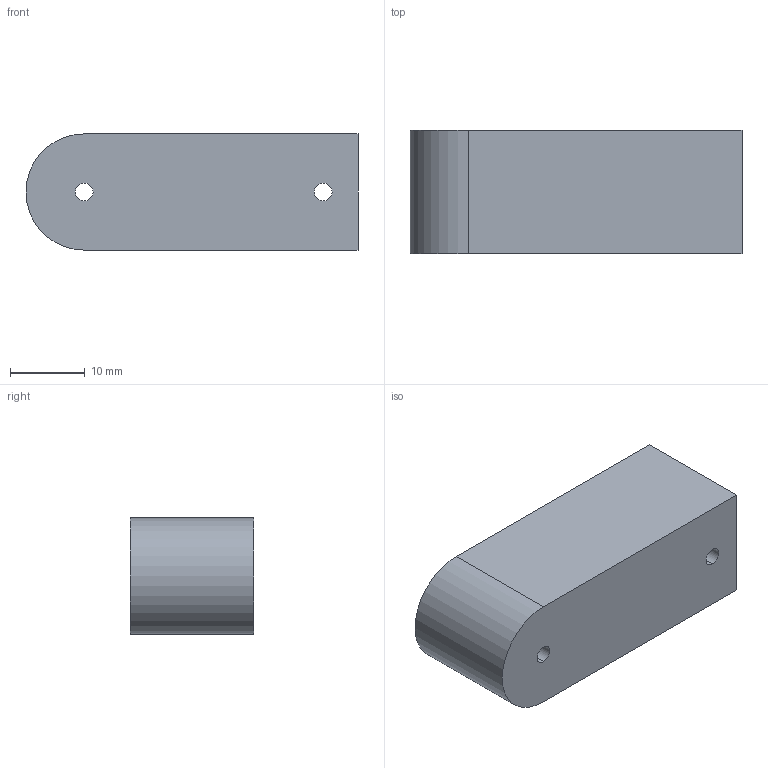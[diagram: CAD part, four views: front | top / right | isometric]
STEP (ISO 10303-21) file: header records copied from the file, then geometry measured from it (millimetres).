
FILE_DESCRIPTION (( 'STEP AP214' ), '1' );
FILE_NAME ('2070_V01_POCKET_OPEN-END_CLIP_SER.STEP', '2025-09-30T12:35:04', ( '' ), ( '' ), 'SwSTEP 2.0', 'SolidWorks 2025', '' );
FILE_SCHEMA (( 'AUTOMOTIVE_DESIGN' ));
Length unit declared in the file: inch
Products named in the file (1): 2070_V01_POCKET_OPEN-END_CLIP_SER
Bounding box: 44.45 x 16.51 x 15.57 mm (x, y, z)
Volume: 4997.5 mm3; surface area: 4332 mm2
Topology: 1 solids, 1 shells, 14 faces, 36 edges, 24 vertices
Faces by surface type: plane 8, cylinder 6
Entity records: 467 total; most frequent: DIRECTION 78, CARTESIAN_POINT 75, ORIENTED_EDGE 72, EDGE_CURVE 36, AXIS2_PLACEMENT_3D 27, VECTOR 24, LINE 24, VERTEX_POINT 24
